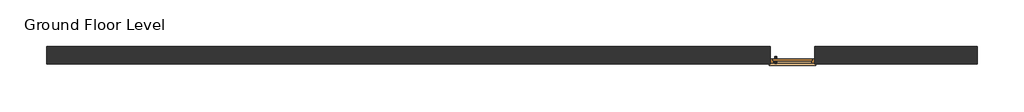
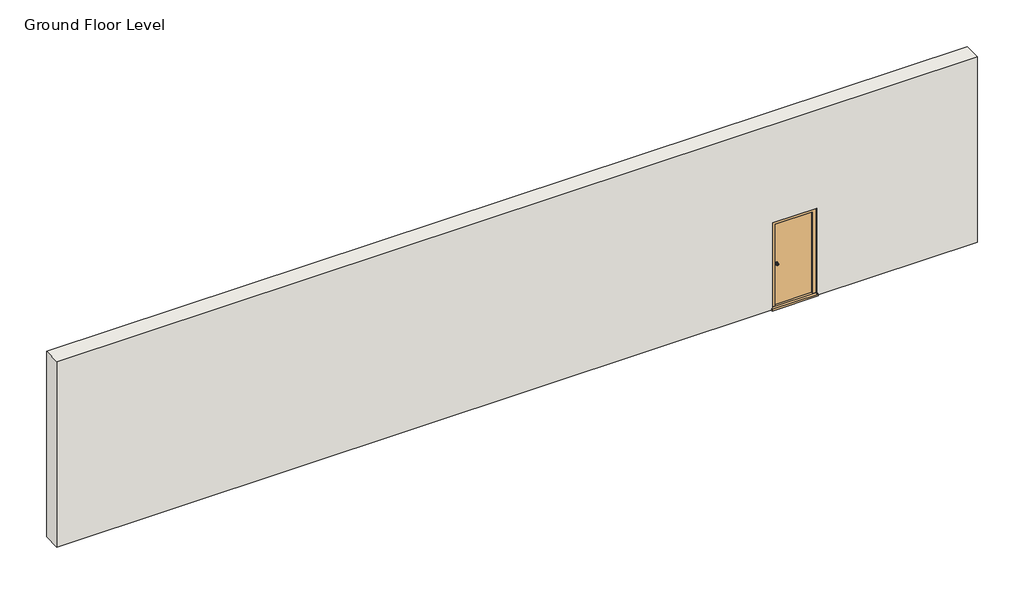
# One storey: 1 door, 1 wall.
"""IFC4 building model written with IfcOpenShell, lengths in millimetres."""

from ifc_helpers import new_model, si_unit, frame, origin, place, context, project, spatial, polyline, outline, extrude, transform, mapped, element, save
from components import doors_extsgl_flush_1010x2110mm_caf77e55

model = new_model("IFC4")

# Units and contexts
model_context = context("Model", 3, world=origin())
ifc_project = project(units=[si_unit("LENGTHUNIT", "METRE", prefix="MILLI")], contexts=[model_context])

# Site, building, storey
site = spatial("IfcSite", under=ifc_project)
building = spatial("IfcBuilding", under=site)
storey = spatial("IfcBuildingStorey", under=building, Name="Ground Floor Level", Elevation=0.0)

# Door
placement = place(None, origin())
doors_extsgl_flush_1010x2110mm_shape = doors_extsgl_flush_1010x2110mm_caf77e55(model_context)
element("IfcDoor", 1, ObjectType="Doors_ExtSgl_Flush : 1010x2110mm", at=placement, inside=storey, context=model_context, shape_type="MappedRepresentation", body=[
    mapped(doors_extsgl_flush_1010x2110mm_shape, transform((444448.079955, -385859.7432771, 0.0), x_axis=(1.0, 0.0, 0.0), y_axis=(0.0, 1.0, 0.0), z_axis=(0.0, 0.0, 1.0))),
])

# Wall
element("IfcWall", 2, ObjectType="Exterior Wall", at=placement, inside=storey, context=model_context, shape_type="SweptSolid", body=[
    extrude(outline(polyline([(2110.0, 444953.079955), (0.0, 444953.079955), (0.0, 448646.079955), (4500.0, 448646.079955), (4500.0, 427518.079955), (0.0, 427518.079955), (0.0, 443943.079955), (2110.0, 443943.079955), (2110.0, 444953.079955)])), frame((0.0, -386060.7432771, 0.0), z_axis=(0.0, 1.0, 0.0), x_axis=(0.0, 0.0, 1.0)), (0.0, 0.0, 1.0), 402.0),
])

save(model, "model.ifc")
